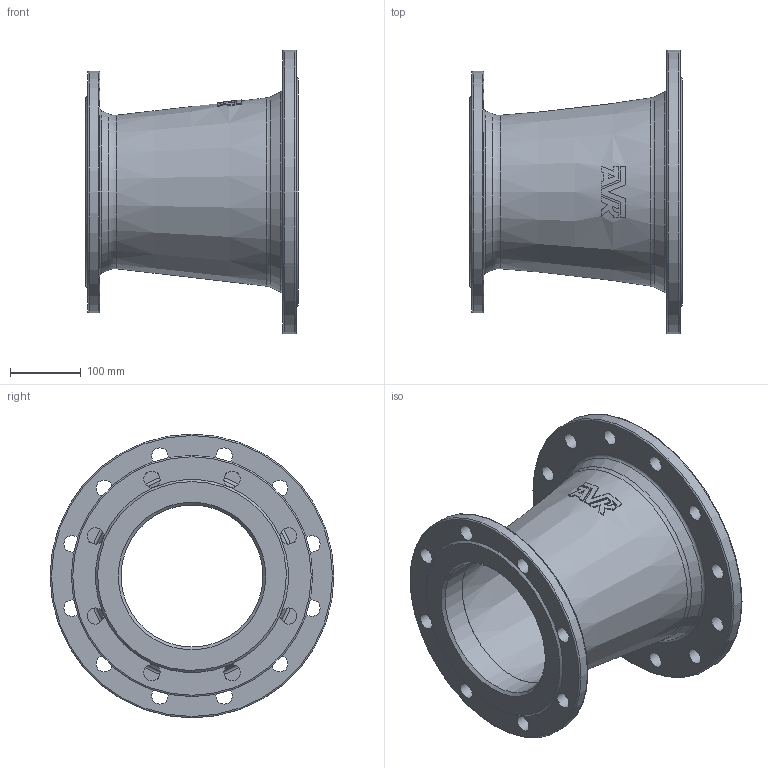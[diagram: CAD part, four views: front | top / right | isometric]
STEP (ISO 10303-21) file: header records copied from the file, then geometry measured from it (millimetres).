
FILE_DESCRIPTION (( 'STEP AP203' ), '1' );
FILE_NAME ('O_712_2210_DN250_DN200_0X_REV01.step', '2024-08-07T12:27:30', ( '' ), ( '' ), 'SwSTEP 2.0', 'SolidWorks 2022', '' );
FILE_SCHEMA (( 'CONFIG_CONTROL_DESIGN' ));
Length unit declared in the file: millimetre
Products named in the file (1): O_712_2210_DN250_DN200_0X_REV01
Bounding box: 300 x 400 x 400 mm (x, y, z)
Volume: 4089549.6 mm3; surface area: 706414.8 mm2
Topology: 1 solids, 1 shells, 89 faces, 253 edges, 166 vertices
Faces by surface type: plane 41, cylinder 26, cone 12, torus 10
Full cylindrical faces by diameter (mm): 23 x20, 200 x1, 250 x1, 340 x1, 400 x1
Entity records: 2727 total; most frequent: CARTESIAN_POINT 602, DIRECTION 431, ORIENTED_EDGE 372, AXIS2_PLACEMENT_3D 197, EDGE_CURVE 186, EDGE_LOOP 173, VERTEX_POINT 141, FACE_OUTER_BOUND 123
